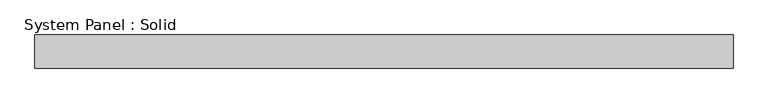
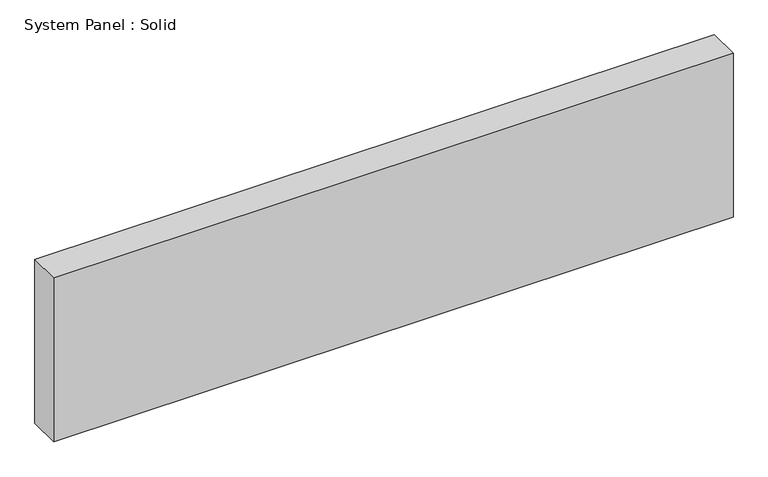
"""IFC4 building model written with IfcOpenShell, lengths in millimetres: plate geometry, System Panel : Solid."""

from ifc_helpers import new_model, si_unit, origin, origin_with_axes, place, context, project, spatial, polyline, outline, extrude, source, transform, mapped, element, save


def system_panel_solid_766daeeb(model_context):
    return source(origin(), model_context, "Body", "SweptSolid", [
        extrude(outline(polyline([(669.5386914, -19.05), (-669.5386914, -19.05), (-669.5386914, 44.45), (669.5386914, 44.45), (669.5386914, -19.05)])), origin_with_axes(), (0.0, 0.0, 1.0), 341.0388226),
    ])


if __name__ == "__main__":
    model = new_model("IFC4")
    model_context = context("Model", 3, world=origin())
    ifc_project = project(units=[si_unit("LENGTHUNIT", "METRE", prefix="MILLI")], contexts=[model_context])
    site = spatial("IfcSite", under=ifc_project)
    building = spatial("IfcBuilding", under=site)
    placement = place(None, origin())
    system_panel_solid_shape = system_panel_solid_766daeeb(model_context)
    element("IfcPlate", 1, ObjectType="System Panel : Solid", at=placement, inside=building, context=model_context, shape_type="MappedRepresentation", body=[
        mapped(system_panel_solid_shape, transform((0.0, 0.0, 0.0), x_axis=(1.0, 0.0, 0.0), y_axis=(0.0, 1.0, 0.0), z_axis=(0.0, 0.0, 1.0))),
    ])
    save(model, "model.ifc")
